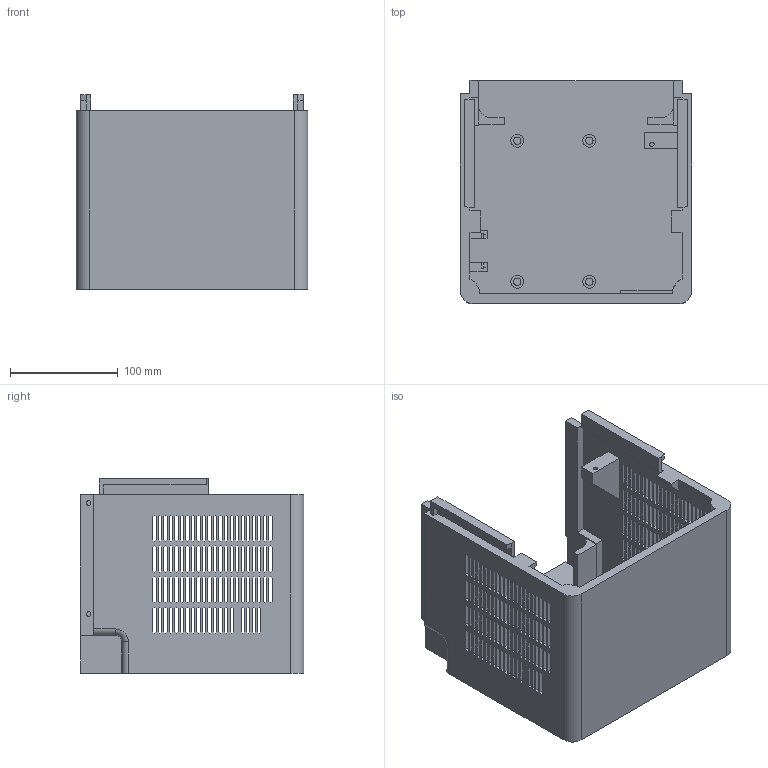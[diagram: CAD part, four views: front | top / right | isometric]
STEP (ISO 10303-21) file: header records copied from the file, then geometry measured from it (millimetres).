
FILE_DESCRIPTION(('Open CASCADE Model'),'2;1');
FILE_NAME('Open CASCADE Shape Model','1970-01-01T00:00:00',('Author'),( 'Open CASCADE'),'Open CASCADE STEP processor 7.8','Open CASCADE 7.8' ,'Unknown');
FILE_SCHEMA(('AUTOMOTIVE_DESIGN { 1 0 10303 214 1 1 1 1 }'));
Length unit declared in the file: millimetre
Products named in the file (2): Open CASCADE STEP translator 7.8 1; enclosure-front-bottom
Assembly tree (1 placements, depth 2):
  Open CASCADE STEP translator 7.8 1
    enclosure-front-bottom
Bounding box: 215 x 207.55 x 180.8 mm (x, y, z)
Volume: 1095269.1 mm3; surface area: 373441.4 mm2
Topology: 1 solids, 1 shells, 1238 faces, 3657 edges, 2434 vertices
Faces by surface type: plane 1198, cylinder 33, bspline 5, torus 2
Full cylindrical faces by diameter (mm): 4 x2, 6.8 x4, 12 x4
Entity records: 85191 total; most frequent: CARTESIAN_POINT 18869, DIRECTION 9653, ORIENTED_EDGE 7314, PCURVE 7314, DEFINITIONAL_REPRESENTATION 7314, LINE 6918, VECTOR 6918, B_SPLINE_CURVE_WITH_KNOTS 3865
